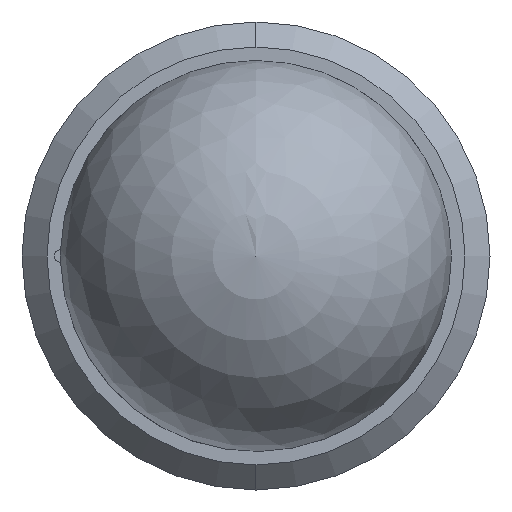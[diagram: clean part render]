
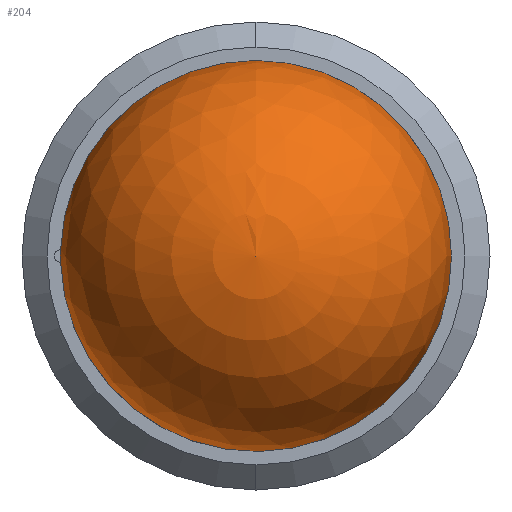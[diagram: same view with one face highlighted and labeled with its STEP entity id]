
A CAD part, left-side view. The second image highlights one B-rep face of the part: STEP entity #204.
In plain terms, the highlighted spherical face has radius 1.984 mm.
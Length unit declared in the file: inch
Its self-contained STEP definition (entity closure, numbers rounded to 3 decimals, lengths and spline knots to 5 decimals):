
#21 = DIRECTION ( 'NONE',  ( 0., 0., 1. ) ) ;
#45 = DIRECTION ( 'NONE',  ( 0., 0., 1. ) ) ;
#67 = AXIS2_PLACEMENT_3D ( 'NONE', #704, #300, #769 ) ;
#117 = VERTEX_POINT ( 'NONE', #522 ) ;
#132 = VERTEX_POINT ( 'NONE', #186 ) ;
#180 = FACE_OUTER_BOUND ( 'NONE', #271, .T. ) ;
#185 = CARTESIAN_POINT ( 'NONE',  ( 0., 0., 0. ) ) ;
#186 = CARTESIAN_POINT ( 'NONE',  ( 0., 0.07808, -0.0025 ) ) ;
#204 = ADVANCED_FACE ( 'NONE', ( #180 ), #694, .T. ) ;
#243 = DIRECTION ( 'NONE',  ( 0., 0., -1. ) ) ;
#271 = EDGE_LOOP ( 'NONE', ( #510, #810, #451 ) ) ;
#279 = VERTEX_POINT ( 'NONE', #562 ) ;
#286 = CIRCLE ( 'NONE', #635, 0.07813 ) ;
#300 = DIRECTION ( 'NONE',  ( -1., 0., 0. ) ) ;
#346 = CIRCLE ( 'NONE', #434, 0.07813 ) ;
#368 = AXIS2_PLACEMENT_3D ( 'NONE', #444, #786, #45 ) ;
#409 = DIRECTION ( 'NONE',  ( -1., 0., 0. ) ) ;
#434 = AXIS2_PLACEMENT_3D ( 'NONE', #834, #409, #21 ) ;
#444 = CARTESIAN_POINT ( 'NONE',  ( 0., 0., 0. ) ) ;
#451 = ORIENTED_EDGE ( 'NONE', *, *, #731, .F. ) ;
#510 = ORIENTED_EDGE ( 'NONE', *, *, #864, .T. ) ;
#522 = CARTESIAN_POINT ( 'NONE',  ( 0., 0.07808, 0.0025 ) ) ;
#562 = CARTESIAN_POINT ( 'NONE',  ( 0., -0.07813, 0. ) ) ;
#632 = EDGE_CURVE ( 'NONE', #132, #279, #737, .T. ) ;
#635 = AXIS2_PLACEMENT_3D ( 'NONE', #185, #664, #243 ) ;
#664 = DIRECTION ( 'NONE',  ( 1., 0., 0. ) ) ;
#694 = SPHERICAL_SURFACE ( 'NONE', #368, 0.07813 ) ;
#704 = CARTESIAN_POINT ( 'NONE',  ( 0., 0., 0. ) ) ;
#731 = EDGE_CURVE ( 'NONE', #117, #279, #286, .T. ) ;
#737 = CIRCLE ( 'NONE', #67, 0.07813 ) ;
#769 = DIRECTION ( 'NONE',  ( 0., 0., 1. ) ) ;
#786 = DIRECTION ( 'NONE',  ( -1., 0., 0. ) ) ;
#810 = ORIENTED_EDGE ( 'NONE', *, *, #632, .T. ) ;
#834 = CARTESIAN_POINT ( 'NONE',  ( 0., 0., 0. ) ) ;
#864 = EDGE_CURVE ( 'NONE', #117, #132, #346, .T. ) ;
